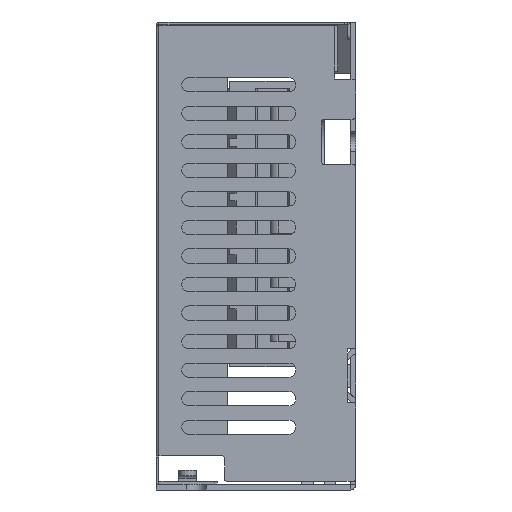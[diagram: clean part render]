
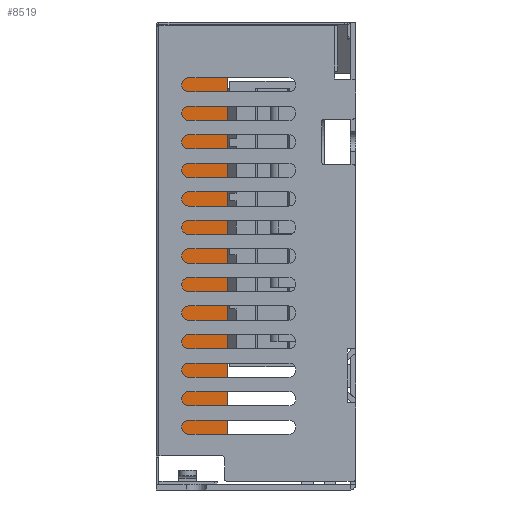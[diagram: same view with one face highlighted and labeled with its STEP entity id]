
A CAD part, left-side view. The second image highlights one B-rep face of the part: STEP entity #8519.
In plain terms, the highlighted planar face has unit normal (-1, 0, 0).
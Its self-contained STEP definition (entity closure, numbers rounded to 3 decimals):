
#3173 = EDGE_CURVE ( 'NONE', #8970, #8971, #17822, .T. ) ;
#4013 = ORIENTED_EDGE ( 'NONE', *, *, #4767, .T. ) ;
#4014 = ORIENTED_EDGE ( 'NONE', *, *, #3173, .T. ) ;
#4015 = ORIENTED_EDGE ( 'NONE', *, *, #4772, .T. ) ;
#4016 = ORIENTED_EDGE ( 'NONE', *, *, #4770, .T. ) ;
#4017 = ORIENTED_EDGE ( 'NONE', *, *, #4764, .T. ) ;
#4018 = ORIENTED_EDGE ( 'NONE', *, *, #4761, .T. ) ;
#4761 = EDGE_CURVE ( 'NONE', #12000, #8970, #19779, .T. ) ;
#4764 = EDGE_CURVE ( 'NONE', #11998, #12000, #11151, .T. ) ;
#4767 = EDGE_CURVE ( 'NONE', #11996, #11998, #19797, .T. ) ;
#4770 = EDGE_CURVE ( 'NONE', #11994, #11996, #11153, .T. ) ;
#4772 = EDGE_CURVE ( 'NONE', #8971, #11994, #19812, .T. ) ;
#8519 = ADVANCED_FACE ( 'NONE', ( #27236 ), #26794, .F. ) ;
#8970 = VERTEX_POINT ( 'NONE', #30057 ) ;
#8971 = VERTEX_POINT ( 'NONE', #30058 ) ;
#11151 = CIRCLE ( 'NONE', #19365, 0.5 ) ;
#11153 = CIRCLE ( 'NONE', #19371, 0.5 ) ;
#11994 = VERTEX_POINT ( 'NONE', #36460 ) ;
#11996 = VERTEX_POINT ( 'NONE', #36462 ) ;
#11998 = VERTEX_POINT ( 'NONE', #36464 ) ;
#12000 = VERTEX_POINT ( 'NONE', #36466 ) ;
#13071 = EDGE_LOOP ( 'NONE', ( #4014, #4015, #4016, #4013, #4017, #4018 ) ) ;
#17651 = VECTOR ( 'NONE', #17824, 1000. ) ;
#17822 = LINE ( 'NONE', #17823, #17651 ) ;
#17823 = CARTESIAN_POINT ( 'NONE',  ( 83.5, 0., 71. ) ) ;
#17824 = DIRECTION ( 'NONE',  ( 0., 0., -1. ) ) ;
#19363 = VECTOR ( 'NONE', #19781, 1000. ) ;
#19365 = AXIS2_PLACEMENT_3D ( 'NONE', #19769, #19788, #19789 ) ;
#19369 = VECTOR ( 'NONE', #19799, 1000. ) ;
#19371 = AXIS2_PLACEMENT_3D ( 'NONE', #19793, #19806, #19807 ) ;
#19373 = VECTOR ( 'NONE', #19814, 1000. ) ;
#19769 = CARTESIAN_POINT ( 'NONE',  ( 83.5, -11.5, 71. ) ) ;
#19779 = LINE ( 'NONE', #19780, #19363 ) ;
#19780 = CARTESIAN_POINT ( 'NONE',  ( 83.5, -11.5, 71.5 ) ) ;
#19781 = DIRECTION ( 'NONE',  ( 0., 1., 0. ) ) ;
#19788 = DIRECTION ( 'NONE',  ( -1., 0., 0. ) ) ;
#19789 = DIRECTION ( 'NONE',  ( 0., 1., 0. ) ) ;
#19793 = CARTESIAN_POINT ( 'NONE',  ( 83.5, -11.5, 7. ) ) ;
#19797 = LINE ( 'NONE', #19798, #19369 ) ;
#19798 = CARTESIAN_POINT ( 'NONE',  ( 83.5, -12., 71. ) ) ;
#19799 = DIRECTION ( 'NONE',  ( 0., 0., 1. ) ) ;
#19806 = DIRECTION ( 'NONE',  ( -1., 0., 0. ) ) ;
#19807 = DIRECTION ( 'NONE',  ( 0., 1., 0. ) ) ;
#19812 = LINE ( 'NONE', #19813, #19373 ) ;
#19813 = CARTESIAN_POINT ( 'NONE',  ( 83.5, -11.5, 6.5 ) ) ;
#19814 = DIRECTION ( 'NONE',  ( 0., -1., 0. ) ) ;
#26794 = PLANE ( 'NONE',  #27246 ) ;
#26795 = CARTESIAN_POINT ( 'NONE',  ( 83.5, -11.5, 71. ) ) ;
#26796 = DIRECTION ( 'NONE',  ( 1., 0., 0. ) ) ;
#26797 = DIRECTION ( 'NONE',  ( 0., 1., 0. ) ) ;
#27236 = FACE_OUTER_BOUND ( 'NONE', #13071, .T. ) ;
#27246 = AXIS2_PLACEMENT_3D ( 'NONE', #26795, #26796, #26797 ) ;
#30057 = CARTESIAN_POINT ( 'NONE',  ( 83.5, 0., 71.5 ) ) ;
#30058 = CARTESIAN_POINT ( 'NONE',  ( 83.5, 0., 6.5 ) ) ;
#36460 = CARTESIAN_POINT ( 'NONE',  ( 83.5, -11.5, 6.5 ) ) ;
#36462 = CARTESIAN_POINT ( 'NONE',  ( 83.5, -12., 7. ) ) ;
#36464 = CARTESIAN_POINT ( 'NONE',  ( 83.5, -12., 71. ) ) ;
#36466 = CARTESIAN_POINT ( 'NONE',  ( 83.5, -11.5, 71.5 ) ) ;
